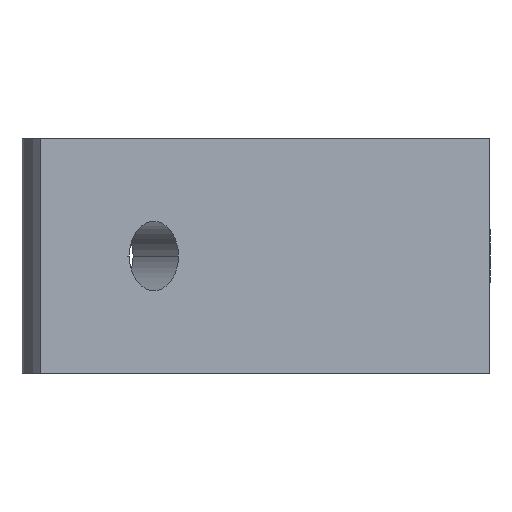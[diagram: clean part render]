
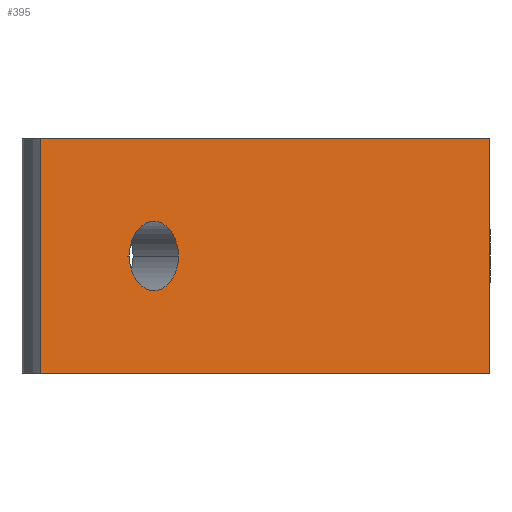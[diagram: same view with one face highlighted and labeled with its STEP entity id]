
A CAD part, left-side view. The second image highlights one B-rep face of the part: STEP entity #395.
In plain terms, the highlighted planar face has unit normal (-0.707, -0.707, 0).
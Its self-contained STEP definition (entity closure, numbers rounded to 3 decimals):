
#16 = ORIENTED_EDGE ( 'NONE', *, *, #638, .F. ) ;
#37 = VERTEX_POINT ( 'NONE', #551 ) ;
#38 = CARTESIAN_POINT ( 'NONE',  ( -42.073, 42.073, 11. ) ) ;
#39 = VECTOR ( 'NONE', #506, 1000. ) ;
#41 = DIRECTION ( 'NONE',  ( 0.707, -0.707, 0. ) ) ;
#47 = VERTEX_POINT ( 'NONE', #616 ) ;
#53 = ORIENTED_EDGE ( 'NONE', *, *, #680, .F. ) ;
#60 = DIRECTION ( 'NONE',  ( 0.707, -0.707, 0. ) ) ;
#78 = DIRECTION ( 'NONE',  ( -0.707, -0.707, 0. ) ) ;
#86 = ORIENTED_EDGE ( 'NONE', *, *, #642, .F. ) ;
#90 = VERTEX_POINT ( 'NONE', #326 ) ;
#92 = ORIENTED_EDGE ( 'NONE', *, *, #437, .F. ) ;
#119 = VERTEX_POINT ( 'NONE', #182 ) ;
#141 = VERTEX_POINT ( 'NONE', #38 ) ;
#154 = ORIENTED_EDGE ( 'NONE', *, *, #168, .T. ) ;
#168 = EDGE_CURVE ( 'NONE', #141, #90, #385, .T. ) ;
#182 = CARTESIAN_POINT ( 'NONE',  ( 0., 0., -11. ) ) ;
#188 = EDGE_LOOP ( 'NONE', ( #86, #16 ) ) ;
#190 = EDGE_LOOP ( 'NONE', ( #254, #53, #92, #154 ) ) ;
#208 = VECTOR ( 'NONE', #60, 1000. ) ;
#253 = VERTEX_POINT ( 'NONE', #579 ) ;
#254 = ORIENTED_EDGE ( 'NONE', *, *, #310, .T. ) ;
#265 = PLANE ( 'NONE',  #615 ) ;
#296 = CARTESIAN_POINT ( 'NONE',  ( -31.466, 31.466, 0. ) ) ;
#310 = EDGE_CURVE ( 'NONE', #90, #119, #396, .T. ) ;
#322 = CARTESIAN_POINT ( 'NONE',  ( 0., 0., 11. ) ) ;
#326 = CARTESIAN_POINT ( 'NONE',  ( -42.073, 42.073, -11. ) ) ;
#371 = VECTOR ( 'NONE', #497, 1000. ) ;
#374 = LINE ( 'NONE', #430, #540 ) ;
#379 = DIRECTION ( 'NONE',  ( 0.707, 0.707, 0. ) ) ;
#385 = LINE ( 'NONE', #444, #371 ) ;
#395 = ADVANCED_FACE ( 'NONE', ( #566, #588 ), #265, .F. ) ;
#396 = LINE ( 'NONE', #451, #39 ) ;
#399 = AXIS2_PLACEMENT_3D ( 'NONE', #687, #578, #629 ) ;
#430 = CARTESIAN_POINT ( 'NONE',  ( 0., 0., 11. ) ) ;
#435 = DIRECTION ( 'NONE',  ( -0.707, 0.707, 0. ) ) ;
#437 = EDGE_CURVE ( 'NONE', #141, #47, #612, .T. ) ;
#444 = CARTESIAN_POINT ( 'NONE',  ( -42.073, 42.073, 11. ) ) ;
#446 = AXIS2_PLACEMENT_3D ( 'NONE', #296, #78, #41 ) ;
#451 = CARTESIAN_POINT ( 'NONE',  ( 0., 0., -11. ) ) ;
#463 = CIRCLE ( 'NONE', #446, 3.25 ) ;
#490 = DIRECTION ( 'NONE',  ( 0., 0., -1. ) ) ;
#497 = DIRECTION ( 'NONE',  ( 0., 0., -1. ) ) ;
#506 = DIRECTION ( 'NONE',  ( 0.707, -0.707, 0. ) ) ;
#540 = VECTOR ( 'NONE', #490, 1000. ) ;
#551 = CARTESIAN_POINT ( 'NONE',  ( -29.168, 29.168, 0. ) ) ;
#566 = FACE_BOUND ( 'NONE', #188, .T. ) ;
#578 = DIRECTION ( 'NONE',  ( -0.707, -0.707, 0. ) ) ;
#579 = CARTESIAN_POINT ( 'NONE',  ( -33.764, 33.764, 0. ) ) ;
#588 = FACE_OUTER_BOUND ( 'NONE', #190, .T. ) ;
#612 = LINE ( 'NONE', #666, #208 ) ;
#615 = AXIS2_PLACEMENT_3D ( 'NONE', #322, #379, #435 ) ;
#616 = CARTESIAN_POINT ( 'NONE',  ( 0., 0., 11. ) ) ;
#629 = DIRECTION ( 'NONE',  ( 0.707, -0.707, 0. ) ) ;
#638 = EDGE_CURVE ( 'NONE', #253, #37, #667, .T. ) ;
#642 = EDGE_CURVE ( 'NONE', #37, #253, #463, .T. ) ;
#666 = CARTESIAN_POINT ( 'NONE',  ( 0., 0., 11. ) ) ;
#667 = CIRCLE ( 'NONE', #399, 3.25 ) ;
#680 = EDGE_CURVE ( 'NONE', #47, #119, #374, .T. ) ;
#687 = CARTESIAN_POINT ( 'NONE',  ( -31.466, 31.466, 0. ) ) ;
